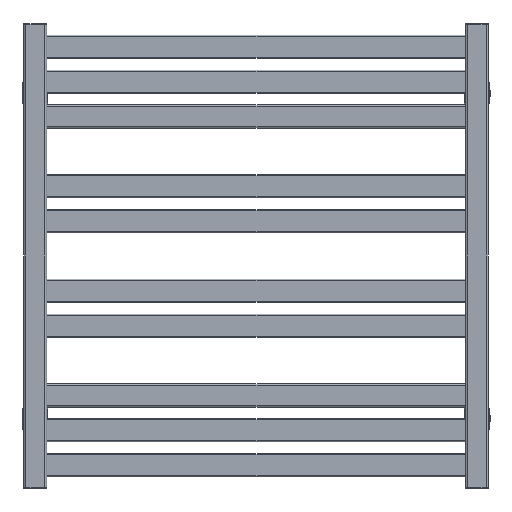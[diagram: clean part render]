
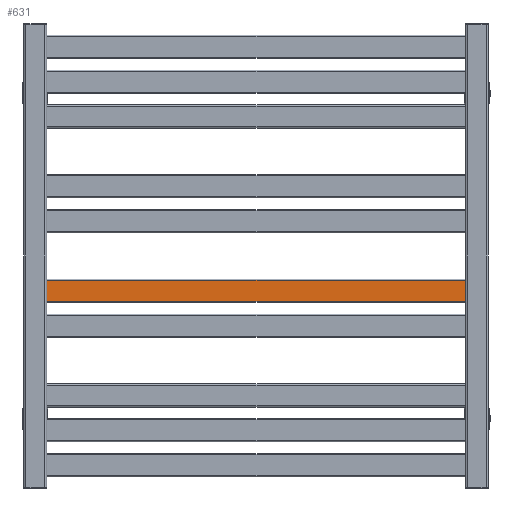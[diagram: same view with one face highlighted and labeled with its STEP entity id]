
A CAD part, front view. The second image highlights one B-rep face of the part: STEP entity #631.
In plain terms, the highlighted planar face has unit normal (0, -1, 0).
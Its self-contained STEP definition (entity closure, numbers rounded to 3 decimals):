
#573=CARTESIAN_POINT('',(-270.0,-5.,268.5));
#574=VERTEX_POINT('',#573);
#582=CARTESIAN_POINT('',(270.,-5.,268.5));
#583=VERTEX_POINT('',#582);
#584=CARTESIAN_POINT('',(270.,-5.,268.5));
#585=DIRECTION('',(-1.0,0.0,0.0));
#586=VECTOR('',#585,540.0);
#587=LINE('',#584,#586);
#588=EDGE_CURVE('',#583,#574,#587,.T.);
#601=CARTESIAN_POINT('',(0.0,-5.,241.5));
#602=DIRECTION('',(0.0,-1.0,0.0));
#603=DIRECTION('',(0.0,0.0,-1.0));
#604=AXIS2_PLACEMENT_3D('',#601,#602,#603);
#605=PLANE('',#604);
#606=CARTESIAN_POINT('',(-270.0,-5.,241.5));
#607=VERTEX_POINT('',#606);
#608=CARTESIAN_POINT('',(-270.0,-5.,241.5));
#609=DIRECTION('',(0.0,0.0,1.0));
#610=VECTOR('',#609,27.0);
#611=LINE('',#608,#610);
#612=EDGE_CURVE('',#607,#574,#611,.T.);
#613=ORIENTED_EDGE('',*,*,#612,.F.);
#614=CARTESIAN_POINT('',(270.,-5.,241.5));
#615=VERTEX_POINT('',#614);
#616=CARTESIAN_POINT('',(270.,-5.,241.5));
#617=DIRECTION('',(-1.0,0.0,0.0));
#618=VECTOR('',#617,540.0);
#619=LINE('',#616,#618);
#620=EDGE_CURVE('',#615,#607,#619,.T.);
#621=ORIENTED_EDGE('',*,*,#620,.F.);
#622=CARTESIAN_POINT('',(270.,-5.,268.5));
#623=DIRECTION('',(0.0,0.0,-1.0));
#624=VECTOR('',#623,27.0);
#625=LINE('',#622,#624);
#626=EDGE_CURVE('',#583,#615,#625,.T.);
#627=ORIENTED_EDGE('',*,*,#626,.F.);
#628=ORIENTED_EDGE('',*,*,#588,.T.);
#629=EDGE_LOOP('',(#613,#621,#627,#628));
#630=FACE_OUTER_BOUND('',#629,.T.);
#631=ADVANCED_FACE('',(#630),#605,.T.);
